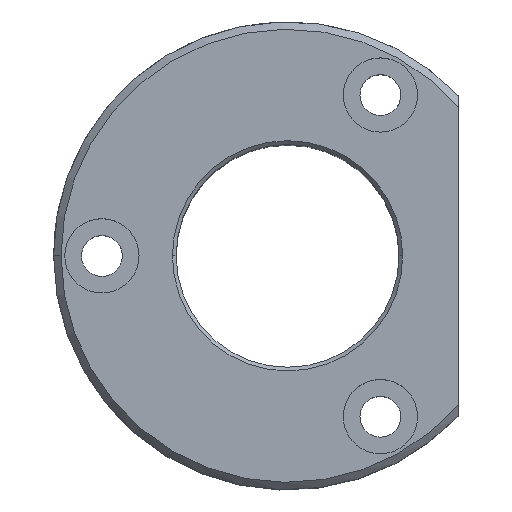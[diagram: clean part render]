
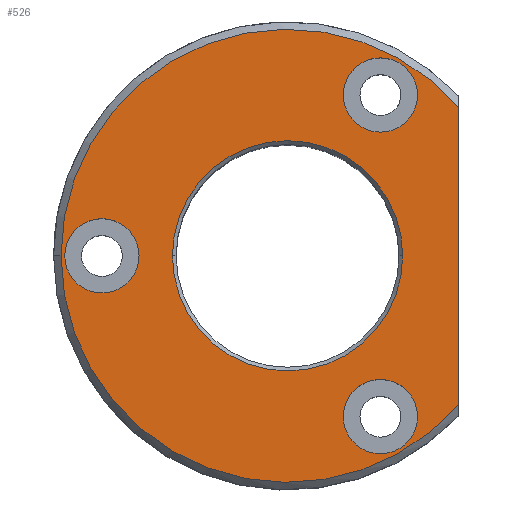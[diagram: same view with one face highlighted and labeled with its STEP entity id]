
A CAD part, top view. The second image highlights one B-rep face of the part: STEP entity #526.
In plain terms, the highlighted planar face has unit normal (0, 0, 1).
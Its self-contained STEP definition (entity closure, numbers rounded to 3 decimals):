
#87=CARTESIAN_POINT('Vertex',(23.,20.031,25.)) ;
#90=CARTESIAN_POINT('Line Origine',(23.,0.,25.)) ;
#94=CARTESIAN_POINT('Vertex',(23.,-20.031,25.)) ;
#424=CARTESIAN_POINT('Vertex',(-30.5,0.,25.)) ;
#427=CARTESIAN_POINT('Axis2P3D Location',(0.,0.,25.)) ;
#439=CARTESIAN_POINT('Axis2P3D Location',(15.5,0.,25.)) ;
#444=CARTESIAN_POINT('Axis2P3D Location',(0.,0.,25.)) ;
#454=CARTESIAN_POINT('Axis2P3D Location',(-25.,0.,25.)) ;
#458=CARTESIAN_POINT('Vertex',(-30.,0.,25.)) ;
#460=CARTESIAN_POINT('Vertex',(-20.,0.,25.)) ;
#463=CARTESIAN_POINT('Axis2P3D Location',(-25.,0.,25.)) ;
#472=CARTESIAN_POINT('Axis2P3D Location',(12.5,-21.651,25.)) ;
#476=CARTESIAN_POINT('Vertex',(7.5,-21.651,25.)) ;
#478=CARTESIAN_POINT('Vertex',(17.5,-21.651,25.)) ;
#481=CARTESIAN_POINT('Axis2P3D Location',(12.5,-21.651,25.)) ;
#490=CARTESIAN_POINT('Axis2P3D Location',(12.5,21.651,25.)) ;
#494=CARTESIAN_POINT('Vertex',(7.5,21.651,25.)) ;
#496=CARTESIAN_POINT('Vertex',(17.5,21.651,25.)) ;
#499=CARTESIAN_POINT('Axis2P3D Location',(12.5,21.651,25.)) ;
#508=CARTESIAN_POINT('Axis2P3D Location',(0.,0.,25.)) ;
#512=CARTESIAN_POINT('Vertex',(-15.5,0.,25.)) ;
#514=CARTESIAN_POINT('Vertex',(15.5,0.,25.)) ;
#517=CARTESIAN_POINT('Axis2P3D Location',(0.,0.,25.)) ;
#91=DIRECTION('Vector Direction',(0.,-1.,0.)) ;
#428=DIRECTION('Axis2P3D Direction',(0.,0.,-1.)) ;
#440=DIRECTION('Axis2P3D Direction',(0.,-0.,1.)) ;
#441=DIRECTION('Axis2P3D XDirection',(1.,0.,0.)) ;
#445=DIRECTION('Axis2P3D Direction',(0.,-0.,1.)) ;
#455=DIRECTION('Axis2P3D Direction',(0.,-0.,1.)) ;
#464=DIRECTION('Axis2P3D Direction',(0.,-0.,1.)) ;
#473=DIRECTION('Axis2P3D Direction',(0.,-0.,1.)) ;
#482=DIRECTION('Axis2P3D Direction',(0.,-0.,1.)) ;
#491=DIRECTION('Axis2P3D Direction',(0.,-0.,1.)) ;
#500=DIRECTION('Axis2P3D Direction',(0.,-0.,1.)) ;
#509=DIRECTION('Axis2P3D Direction',(0.,-0.,1.)) ;
#518=DIRECTION('Axis2P3D Direction',(0.,-0.,1.)) ;
#429=AXIS2_PLACEMENT_3D('Circle Axis2P3D',#427,#428,$) ;
#442=AXIS2_PLACEMENT_3D('Plane Axis2P3D',#439,#440,#441) ;
#446=AXIS2_PLACEMENT_3D('Circle Axis2P3D',#444,#445,$) ;
#456=AXIS2_PLACEMENT_3D('Circle Axis2P3D',#454,#455,$) ;
#465=AXIS2_PLACEMENT_3D('Circle Axis2P3D',#463,#464,$) ;
#474=AXIS2_PLACEMENT_3D('Circle Axis2P3D',#472,#473,$) ;
#483=AXIS2_PLACEMENT_3D('Circle Axis2P3D',#481,#482,$) ;
#492=AXIS2_PLACEMENT_3D('Circle Axis2P3D',#490,#491,$) ;
#501=AXIS2_PLACEMENT_3D('Circle Axis2P3D',#499,#500,$) ;
#510=AXIS2_PLACEMENT_3D('Circle Axis2P3D',#508,#509,$) ;
#519=AXIS2_PLACEMENT_3D('Circle Axis2P3D',#517,#518,$) ;
#450=ORIENTED_EDGE('',*,*,#96,.F.) ;
#451=ORIENTED_EDGE('',*,*,#431,.T.) ;
#452=ORIENTED_EDGE('',*,*,#448,.T.) ;
#469=ORIENTED_EDGE('',*,*,#462,.F.) ;
#470=ORIENTED_EDGE('',*,*,#467,.F.) ;
#487=ORIENTED_EDGE('',*,*,#480,.F.) ;
#488=ORIENTED_EDGE('',*,*,#485,.F.) ;
#505=ORIENTED_EDGE('',*,*,#498,.F.) ;
#506=ORIENTED_EDGE('',*,*,#503,.F.) ;
#523=ORIENTED_EDGE('',*,*,#516,.F.) ;
#524=ORIENTED_EDGE('',*,*,#521,.F.) ;
#471=FACE_BOUND('',#468,.T.) ;
#489=FACE_BOUND('',#486,.T.) ;
#507=FACE_BOUND('',#504,.T.) ;
#525=FACE_BOUND('',#522,.T.) ;
#92=VECTOR('Line Direction',#91,1.) ;
#526=ADVANCED_FACE('737-24',(#453,#471,#489,#507,#525),#443,.T.) ;
#430=CIRCLE('generated circle',#429,30.5) ;
#447=CIRCLE('generated circle',#446,30.5) ;
#457=CIRCLE('generated circle',#456,5.) ;
#466=CIRCLE('generated circle',#465,5.) ;
#475=CIRCLE('generated circle',#474,5.) ;
#484=CIRCLE('generated circle',#483,5.) ;
#493=CIRCLE('generated circle',#492,5.) ;
#502=CIRCLE('generated circle',#501,5.) ;
#511=CIRCLE('generated circle',#510,15.5) ;
#520=CIRCLE('generated circle',#519,15.5) ;
#96=EDGE_CURVE('',#88,#95,#93,.T.) ;
#431=EDGE_CURVE('',#88,#425,#430,.F.) ;
#448=EDGE_CURVE('',#425,#95,#447,.T.) ;
#462=EDGE_CURVE('',#459,#461,#457,.T.) ;
#467=EDGE_CURVE('',#461,#459,#466,.T.) ;
#480=EDGE_CURVE('',#477,#479,#475,.T.) ;
#485=EDGE_CURVE('',#479,#477,#484,.T.) ;
#498=EDGE_CURVE('',#495,#497,#493,.T.) ;
#503=EDGE_CURVE('',#497,#495,#502,.T.) ;
#516=EDGE_CURVE('',#513,#515,#511,.T.) ;
#521=EDGE_CURVE('',#515,#513,#520,.T.) ;
#449=EDGE_LOOP('',(#450,#451,#452)) ;
#468=EDGE_LOOP('',(#469,#470)) ;
#486=EDGE_LOOP('',(#487,#488)) ;
#504=EDGE_LOOP('',(#505,#506)) ;
#522=EDGE_LOOP('',(#523,#524)) ;
#453=FACE_OUTER_BOUND('',#449,.T.) ;
#93=LINE('Line',#90,#92) ;
#443=PLANE('Plane',#442) ;
#88=VERTEX_POINT('',#87) ;
#95=VERTEX_POINT('',#94) ;
#425=VERTEX_POINT('',#424) ;
#459=VERTEX_POINT('',#458) ;
#461=VERTEX_POINT('',#460) ;
#477=VERTEX_POINT('',#476) ;
#479=VERTEX_POINT('',#478) ;
#495=VERTEX_POINT('',#494) ;
#497=VERTEX_POINT('',#496) ;
#513=VERTEX_POINT('',#512) ;
#515=VERTEX_POINT('',#514) ;
